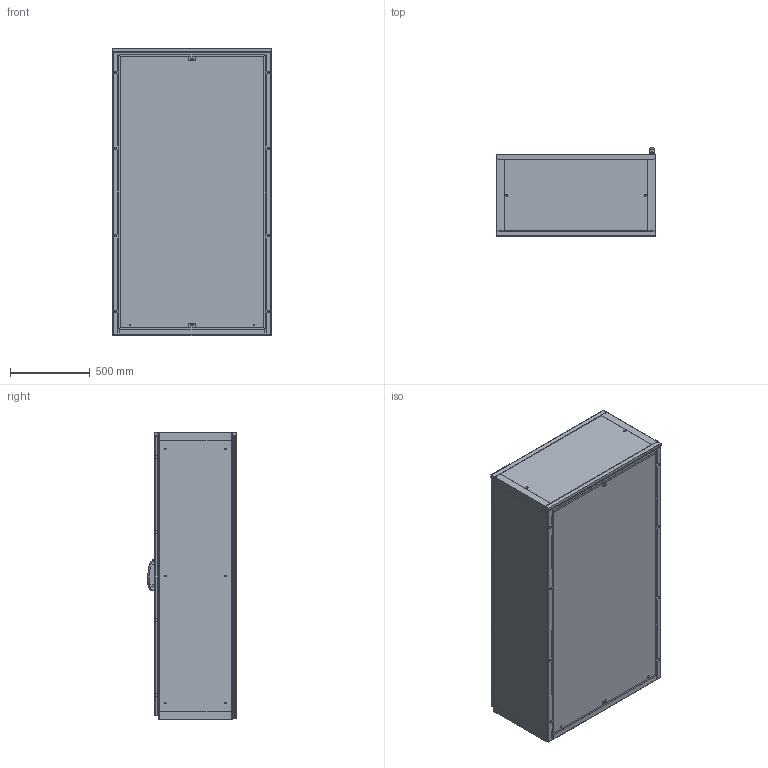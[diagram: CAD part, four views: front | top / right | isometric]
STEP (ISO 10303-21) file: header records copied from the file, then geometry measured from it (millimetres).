
FILE_DESCRIPTION (( 'STEP AP203' ), '1' );
FILE_NAME ('EMOX101805PV.STEP', '2025-06-03T09:33:09', ( '' ), ( '' ), 'SwSTEP 2.0', 'SolidWorks 2022', '' );
FILE_SCHEMA (( 'CONFIG_CONTROL_DESIGN' ));
Length unit declared in the file: millimetre
Products named in the file (10): AR_EMOX_Tegolino_1000x0100; AR_EMOX_Retro_singolo_1000x1800; AR_EMOX_Piastra_frontale_3.0_1000x1800; AR_EMOX_Tegolino_1000x0050; AR_ENUX_nuova_maniglia_mesan; AR_EMOX_Plexiglass_porte_1000x1800; AR_EMOX_struttura_1000x1800x0500; EMOX101805PV; AR_EMOX_montaggio_porta_singlola_plexi_1000x1800_ANT_DX; AR_EMOX_Porta_singola_plexi_1000x1800_ANT
Assembly tree (11 placements, depth 3):
  EMOX101805PV
    AR_EMOX_struttura_1000x1800x0500
    AR_EMOX_Retro_singolo_1000x1800
    AR_EMOX_Tegolino_1000x0050  x2
    AR_EMOX_Tegolino_1000x0100  x2
    AR_EMOX_Piastra_frontale_3.0_1000x1800
    AR_EMOX_montaggio_porta_singlola_plexi_1000x1800_ANT_DX
      AR_EMOX_Porta_singola_plexi_1000x1800_ANT
      AR_EMOX_Plexiglass_porte_1000x1800
      AR_ENUX_nuova_maniglia_mesan
Bounding box: 1000 x 556.5 x 1809 mm (x, y, z)
Volume: 21088034.5 mm3; surface area: 20238698.2 mm2
Topology: 10 solids, 10 shells, 2602 faces, 7259 edges, 4668 vertices
Faces by surface type: plane 1408, cylinder 1055, cone 48, torus 46, bspline 25, sphere 20
Entity records: 86296 total; most frequent: CARTESIAN_POINT 17654, DIRECTION 14018, ORIENTED_EDGE 13878, EDGE_CURVE 6939, AXIS2_PLACEMENT_3D 4691, LINE 4636, VECTOR 4636, VERTEX_POINT 4508
